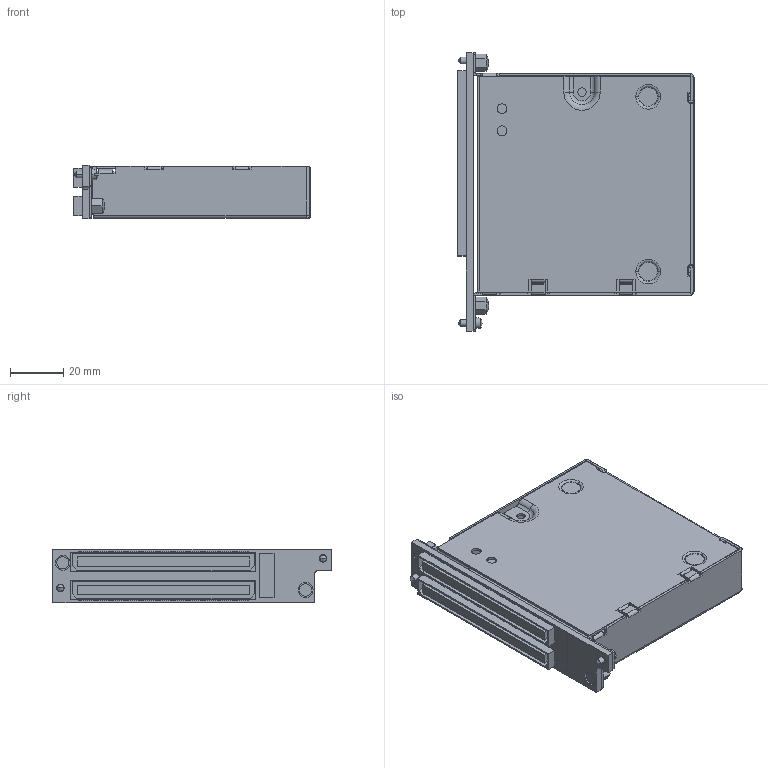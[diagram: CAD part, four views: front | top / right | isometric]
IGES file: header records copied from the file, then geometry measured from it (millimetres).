
Start section:  PTC IGES file: cu_tb-2641.igs
Global section: file name: cu_tb-2641.igs; native system: Pro/ENGINEER by Parametric Technology Corporation; preprocessor: 2010230; author: jjorden; organization: Unknown; date: 20110812.211946; units: inch
Bounding box: 88.62 x 104.04 x 20.02 mm (x, y, z)
Surface area: 44800.9 mm2 (no closed solid volume)
Topology: 0 solids, 0 shells, 1989 faces, 11190 edges, 11174 vertices
Faces by surface type: bspline 1760, revolution 229
